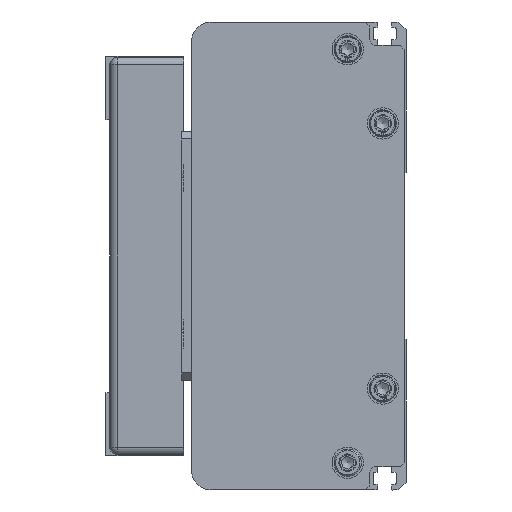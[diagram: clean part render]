
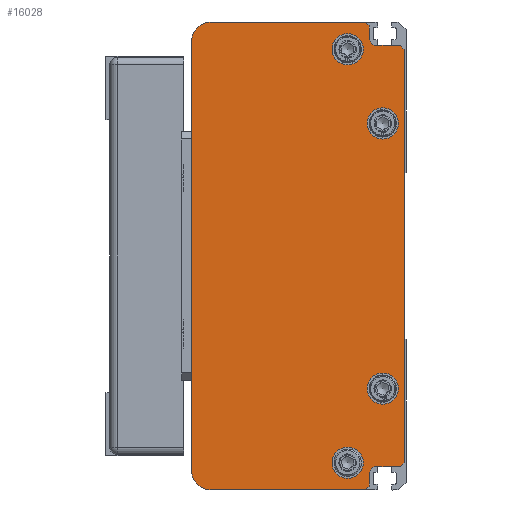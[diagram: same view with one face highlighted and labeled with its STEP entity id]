
A CAD part, left-side view. The second image highlights one B-rep face of the part: STEP entity #16028.
In plain terms, the highlighted planar face has unit normal (-1, 0, 0) as drawn and (0, 0, -1) by its records, which use the part's own axes.
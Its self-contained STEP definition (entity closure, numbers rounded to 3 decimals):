
#846=FACE_BOUND('',#2673,.T.);
#847=FACE_BOUND('',#2674,.T.);
#848=FACE_BOUND('',#2675,.T.);
#849=FACE_BOUND('',#2676,.T.);
#1180=CIRCLE('',#17184,5.);
#1181=CIRCLE('',#17186,5.);
#1182=CIRCLE('',#17187,2.);
#1183=CIRCLE('',#17188,2.);
#1184=CIRCLE('',#17189,4.);
#1185=CIRCLE('',#17190,4.);
#1186=CIRCLE('',#17191,4.);
#1187=CIRCLE('',#17192,4.);
#1624=FACE_OUTER_BOUND('',#2672,.T.);
#2672=EDGE_LOOP('',(#11058,#11059,#11060,#11061,#11062,#11063,#11064,#11065,
#11066,#11067,#11068,#11069,#11070,#11071,#11072,#11073));
#2673=EDGE_LOOP('',(#11074));
#2674=EDGE_LOOP('',(#11075));
#2675=EDGE_LOOP('',(#11076));
#2676=EDGE_LOOP('',(#11077));
#3921=LINE('',#22968,#5455);
#3922=LINE('',#22970,#5456);
#3923=LINE('',#22973,#5457);
#3924=LINE('',#22975,#5458);
#3925=LINE('',#22977,#5459);
#3926=LINE('',#22979,#5460);
#3927=LINE('',#22983,#5461);
#3928=LINE('',#22985,#5462);
#3929=LINE('',#22987,#5463);
#3930=LINE('',#22989,#5464);
#3931=LINE('',#22991,#5465);
#3932=LINE('',#22994,#5466);
#5455=VECTOR('',#18760,1.414);
#5456=VECTOR('',#18761,39.5);
#5457=VECTOR('',#18764,110.);
#5458=VECTOR('',#18765,39.5);
#5459=VECTOR('',#18766,1.414);
#5460=VECTOR('',#18767,3.);
#5461=VECTOR('',#18770,6.);
#5462=VECTOR('',#18771,1.414);
#5463=VECTOR('',#18772,106.);
#5464=VECTOR('',#18773,1.414);
#5465=VECTOR('',#18774,6.);
#5466=VECTOR('',#18777,3.);
#7035=VERTEX_POINT('',#22960);
#7036=VERTEX_POINT('',#22962);
#7037=VERTEX_POINT('',#22966);
#7038=VERTEX_POINT('',#22967);
#7039=VERTEX_POINT('',#22969);
#7040=VERTEX_POINT('',#22971);
#7041=VERTEX_POINT('',#22974);
#7042=VERTEX_POINT('',#22976);
#7043=VERTEX_POINT('',#22978);
#7044=VERTEX_POINT('',#22980);
#7045=VERTEX_POINT('',#22982);
#7046=VERTEX_POINT('',#22984);
#7047=VERTEX_POINT('',#22986);
#7048=VERTEX_POINT('',#22988);
#7049=VERTEX_POINT('',#22990);
#7050=VERTEX_POINT('',#22992);
#7051=VERTEX_POINT('',#22995);
#7052=VERTEX_POINT('',#22997);
#7053=VERTEX_POINT('',#22999);
#7054=VERTEX_POINT('',#23001);
#8642=EDGE_CURVE('',#7035,#7036,#1180,.T.);
#8644=EDGE_CURVE('',#7037,#7038,#3921,.T.);
#8645=EDGE_CURVE('',#7037,#7039,#3922,.T.);
#8646=EDGE_CURVE('',#7040,#7039,#1181,.T.);
#8647=EDGE_CURVE('',#7040,#7036,#3923,.T.);
#8648=EDGE_CURVE('',#7035,#7041,#3924,.T.);
#8649=EDGE_CURVE('',#7042,#7041,#3925,.T.);
#8650=EDGE_CURVE('',#7042,#7043,#3926,.T.);
#8651=EDGE_CURVE('',#7043,#7044,#1182,.T.);
#8652=EDGE_CURVE('',#7044,#7045,#3927,.T.);
#8653=EDGE_CURVE('',#7046,#7045,#3928,.T.);
#8654=EDGE_CURVE('',#7046,#7047,#3929,.T.);
#8655=EDGE_CURVE('',#7048,#7047,#3930,.T.);
#8656=EDGE_CURVE('',#7048,#7049,#3931,.T.);
#8657=EDGE_CURVE('',#7049,#7050,#1183,.T.);
#8658=EDGE_CURVE('',#7050,#7038,#3932,.T.);
#8659=EDGE_CURVE('',#7051,#7051,#1184,.T.);
#8660=EDGE_CURVE('',#7052,#7052,#1185,.T.);
#8661=EDGE_CURVE('',#7053,#7053,#1186,.T.);
#8662=EDGE_CURVE('',#7054,#7054,#1187,.T.);
#11058=ORIENTED_EDGE('',*,*,#8644,.F.);
#11059=ORIENTED_EDGE('',*,*,#8645,.T.);
#11060=ORIENTED_EDGE('',*,*,#8646,.F.);
#11061=ORIENTED_EDGE('',*,*,#8647,.T.);
#11062=ORIENTED_EDGE('',*,*,#8642,.F.);
#11063=ORIENTED_EDGE('',*,*,#8648,.T.);
#11064=ORIENTED_EDGE('',*,*,#8649,.F.);
#11065=ORIENTED_EDGE('',*,*,#8650,.T.);
#11066=ORIENTED_EDGE('',*,*,#8651,.T.);
#11067=ORIENTED_EDGE('',*,*,#8652,.T.);
#11068=ORIENTED_EDGE('',*,*,#8653,.F.);
#11069=ORIENTED_EDGE('',*,*,#8654,.T.);
#11070=ORIENTED_EDGE('',*,*,#8655,.F.);
#11071=ORIENTED_EDGE('',*,*,#8656,.T.);
#11072=ORIENTED_EDGE('',*,*,#8657,.T.);
#11073=ORIENTED_EDGE('',*,*,#8658,.T.);
#11074=ORIENTED_EDGE('',*,*,#8659,.T.);
#11075=ORIENTED_EDGE('',*,*,#8660,.T.);
#11076=ORIENTED_EDGE('',*,*,#8661,.T.);
#11077=ORIENTED_EDGE('',*,*,#8662,.T.);
#15392=PLANE('',#17185);
#16028=ADVANCED_FACE('',(#1624,#846,#847,#848,#849),#15392,.F.);
#17184=AXIS2_PLACEMENT_3D('',#22963,#18755,#18756);
#17185=AXIS2_PLACEMENT_3D('',#22965,#18758,#18759);
#17186=AXIS2_PLACEMENT_3D('',#22972,#18762,#18763);
#17187=AXIS2_PLACEMENT_3D('',#22981,#18768,#18769);
#17188=AXIS2_PLACEMENT_3D('',#22993,#18775,#18776);
#17189=AXIS2_PLACEMENT_3D('',#22996,#18778,#18779);
#17190=AXIS2_PLACEMENT_3D('',#22998,#18780,#18781);
#17191=AXIS2_PLACEMENT_3D('',#23000,#18782,#18783);
#17192=AXIS2_PLACEMENT_3D('',#23002,#18784,#18785);
#18755=DIRECTION('center_axis',(0.,0.,
1.));
#18756=DIRECTION('ref_axis',(0.707,0.707,0.));
#18758=DIRECTION('center_axis',(0.,0.,
1.));
#18759=DIRECTION('ref_axis',(-1.,-0.018,0.));
#18760=DIRECTION('',(0.707,-0.707,0.));
#18761=DIRECTION('',(0.,1.,0.));
#18762=DIRECTION('center_axis',(0.,0.,
1.));
#18763=DIRECTION('ref_axis',(-0.707,0.707,0.));
#18764=DIRECTION('',(1.,0.,0.));
#18765=DIRECTION('',(0.,-1.,0.));
#18766=DIRECTION('',(0.707,0.707,0.));
#18767=DIRECTION('',(-1.,0.,0.));
#18768=DIRECTION('center_axis',(0.,0.,
1.));
#18769=DIRECTION('ref_axis',(0.,-1.,0.));
#18770=DIRECTION('',(0.,-1.,0.));
#18771=DIRECTION('',(0.707,0.707,0.));
#18772=DIRECTION('',(-1.,0.,0.));
#18773=DIRECTION('',(0.707,-0.707,0.));
#18774=DIRECTION('',(0.,1.,0.));
#18775=DIRECTION('center_axis',(0.,0.,
1.));
#18776=DIRECTION('ref_axis',(1.,0.,0.));
#18777=DIRECTION('',(-1.,0.,0.));
#18778=DIRECTION('center_axis',(0.,0.,
1.));
#18779=DIRECTION('ref_axis',(0.,1.,0.));
#18780=DIRECTION('center_axis',(0.,0.,
1.));
#18781=DIRECTION('ref_axis',(0.,1.,0.));
#18782=DIRECTION('center_axis',(0.,0.,
1.));
#18783=DIRECTION('ref_axis',(0.,1.,0.));
#18784=DIRECTION('center_axis',(0.,0.,
1.));
#18785=DIRECTION('ref_axis',(0.,1.,0.));
#22960=CARTESIAN_POINT('',(124.75,50.75,-1442.5));
#22962=CARTESIAN_POINT('',(119.75,55.75,-1442.5));
#22963=CARTESIAN_POINT('Origin',(119.75,50.75,-1442.5));
#22965=CARTESIAN_POINT('Origin',(64.75,28.5,-1442.5));
#22966=CARTESIAN_POINT('',(4.75,11.25,-1442.5));
#22967=CARTESIAN_POINT('',(5.75,10.25,-1442.5));
#22968=CARTESIAN_POINT('',(4.75,11.25,-1442.5));
#22969=CARTESIAN_POINT('',(4.75,50.75,-1442.5));
#22970=CARTESIAN_POINT('',(4.75,11.25,-1442.5));
#22971=CARTESIAN_POINT('',(9.75,55.75,-1442.5));
#22972=CARTESIAN_POINT('Origin',(9.75,50.75,-1442.5));
#22973=CARTESIAN_POINT('',(9.75,55.75,-1442.5));
#22974=CARTESIAN_POINT('',(124.75,11.25,-1442.5));
#22975=CARTESIAN_POINT('',(124.75,50.75,-1442.5));
#22976=CARTESIAN_POINT('',(123.75,10.25,-1442.5));
#22977=CARTESIAN_POINT('',(123.75,10.25,-1442.5));
#22978=CARTESIAN_POINT('',(120.75,10.25,-1442.5));
#22979=CARTESIAN_POINT('',(123.75,10.25,-1442.5));
#22980=CARTESIAN_POINT('',(118.75,8.25,-1442.5));
#22981=CARTESIAN_POINT('Origin',(120.75,8.25,-1442.5));
#22982=CARTESIAN_POINT('',(118.75,2.25,-1442.5));
#22983=CARTESIAN_POINT('',(118.75,8.25,-1442.5));
#22984=CARTESIAN_POINT('',(117.75,1.25,-1442.5));
#22985=CARTESIAN_POINT('',(117.75,1.25,-1442.5));
#22986=CARTESIAN_POINT('',(11.75,1.25,-1442.5));
#22987=CARTESIAN_POINT('',(117.75,1.25,-1442.5));
#22988=CARTESIAN_POINT('',(10.75,2.25,-1442.5));
#22989=CARTESIAN_POINT('',(10.75,2.25,-1442.5));
#22990=CARTESIAN_POINT('',(10.75,8.25,-1442.5));
#22991=CARTESIAN_POINT('',(10.75,2.25,-1442.5));
#22992=CARTESIAN_POINT('',(8.75,10.25,-1442.5));
#22993=CARTESIAN_POINT('Origin',(8.75,8.25,-1442.5));
#22994=CARTESIAN_POINT('',(8.75,10.25,-1442.5));
#22995=CARTESIAN_POINT('',(30.75,10.75,-1442.5));
#22996=CARTESIAN_POINT('Origin',(30.75,6.75,-1442.5));
#22997=CARTESIAN_POINT('',(98.75,10.75,-1442.5));
#22998=CARTESIAN_POINT('Origin',(98.75,6.75,-1442.5));
#22999=CARTESIAN_POINT('',(11.75,19.75,-1442.5));
#23000=CARTESIAN_POINT('Origin',(11.75,15.75,-1442.5));
#23001=CARTESIAN_POINT('',(117.75,19.75,-1442.5));
#23002=CARTESIAN_POINT('Origin',(117.75,15.75,-1442.5));
